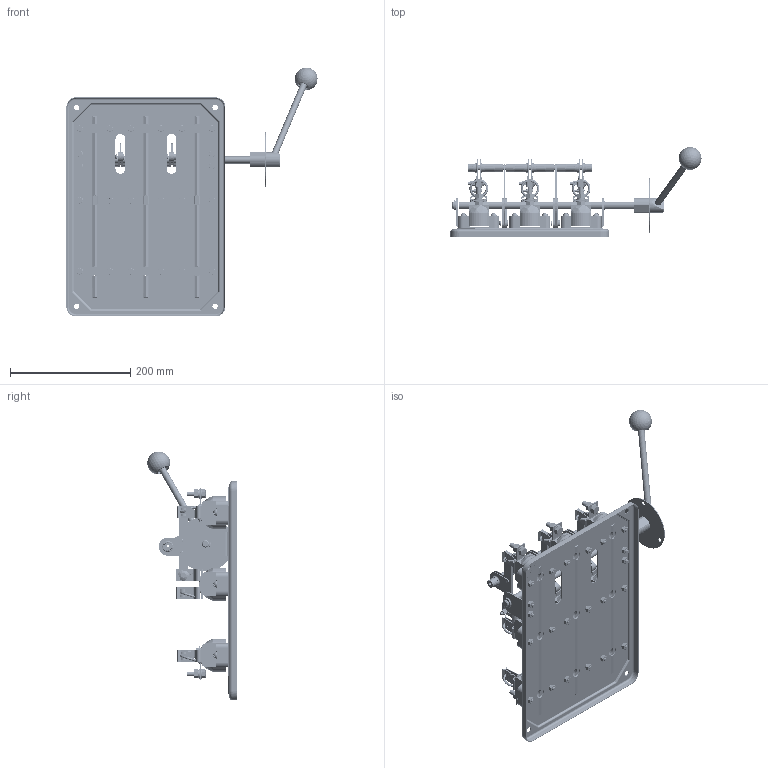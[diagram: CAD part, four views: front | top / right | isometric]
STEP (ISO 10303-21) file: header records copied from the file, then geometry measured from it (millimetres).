
FILE_DESCRIPTION (( 'STEP AP203' ), '1' );
FILE_NAME ('ﾐﾏﾁ-1ﾋ.STEP', '2016-03-25T10:36:36', ( 'user' ), ( '' ), 'SwSTEP 2.0', 'SolidWorks 2010', '' );
FILE_SCHEMA (( 'CONFIG_CONTROL_DESIGN' ));
Products named in the file (1): ﾐﾏﾁ-1ﾋ
Bounding box: 417.19 x 148.57 x 413.39 mm (x, y, z)
Surface area: 608408.7 mm2 (no closed solid volume)
Topology: 0 solids, 344 shells, 3152 faces, 9668 edges, 6712 vertices
Faces by surface type: plane 1609, cylinder 1183, sphere 118, cone 118, torus 70, bspline 54
Entity records: 117163 total; most frequent: CARTESIAN_POINT 31793, DIRECTION 18472, ORIENTED_EDGE 15850, EDGE_CURVE 9528, AXIS2_PLACEMENT_3D 7014, VERTEX_POINT 6637, VECTOR 4444, LINE 4444
